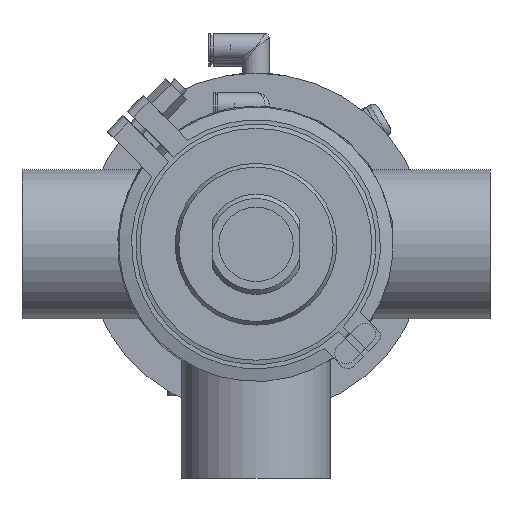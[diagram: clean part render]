
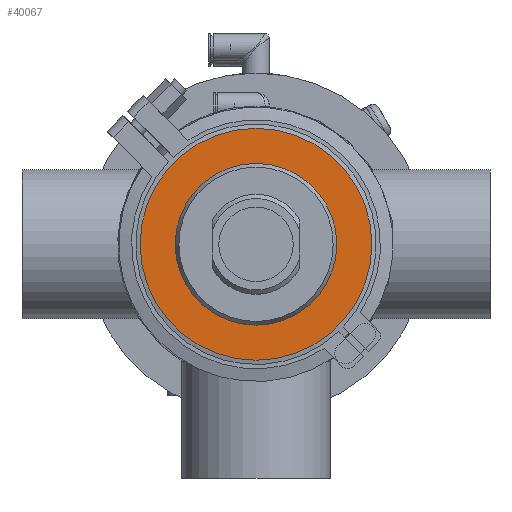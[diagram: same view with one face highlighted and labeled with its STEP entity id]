
A CAD part, front view. The second image highlights one B-rep face of the part: STEP entity #40067.
In plain terms, the highlighted planar face has unit normal (0, -1, 0).
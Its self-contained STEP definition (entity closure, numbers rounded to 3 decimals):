
#2469 = EDGE_LOOP ( 'NONE', ( #32436 ) ) ;
#4501 = VERTEX_POINT ( 'NONE', #42460 ) ;
#5676 = CARTESIAN_POINT ( 'NONE',  ( 0., -13., 0. ) ) ;
#6005 = DIRECTION ( 'NONE',  ( 0., 0., 1. ) ) ;
#7747 = CARTESIAN_POINT ( 'NONE',  ( -54.5, -13., 0. ) ) ;
#7769 = AXIS2_PLACEMENT_3D ( 'NONE', #8018, #43019, #48140 ) ;
#8018 = CARTESIAN_POINT ( 'NONE',  ( 0., -13., 0. ) ) ;
#10159 = CARTESIAN_POINT ( 'NONE',  ( 0., -13., 54.5 ) ) ;
#10710 = EDGE_CURVE ( 'NONE', #36173, #36173, #19793, .T. ) ;
#12175 = ORIENTED_EDGE ( 'NONE', *, *, #10710, .F. ) ;
#12883 = DIRECTION ( 'NONE',  ( 0., -1., 0. ) ) ;
#16329 = AXIS2_PLACEMENT_3D ( 'NONE', #7747, #12883, #21640 ) ;
#17734 = FACE_OUTER_BOUND ( 'NONE', #39116, .T. ) ;
#19793 = CIRCLE ( 'NONE', #54667, 54.5 ) ;
#21640 = DIRECTION ( 'NONE',  ( 0., 0., -1. ) ) ;
#32436 = ORIENTED_EDGE ( 'NONE', *, *, #33926, .T. ) ;
#33926 = EDGE_CURVE ( 'NONE', #4501, #4501, #62166, .T. ) ;
#36173 = VERTEX_POINT ( 'NONE', #10159 ) ;
#39116 = EDGE_LOOP ( 'NONE', ( #12175 ) ) ;
#40067 = ADVANCED_FACE ( 'NONE', ( #56939, #17734 ), #61133, .T. ) ;
#42460 = CARTESIAN_POINT ( 'NONE',  ( 0., -13., 38. ) ) ;
#43019 = DIRECTION ( 'NONE',  ( 0., 1., 0. ) ) ;
#48140 = DIRECTION ( 'NONE',  ( 0., 0., 1. ) ) ;
#54667 = AXIS2_PLACEMENT_3D ( 'NONE', #5676, #59714, #6005 ) ;
#56939 = FACE_BOUND ( 'NONE', #2469, .T. ) ;
#59714 = DIRECTION ( 'NONE',  ( 0., 1., 0. ) ) ;
#61133 = PLANE ( 'NONE',  #16329 ) ;
#62166 = CIRCLE ( 'NONE', #7769, 38. ) ;
